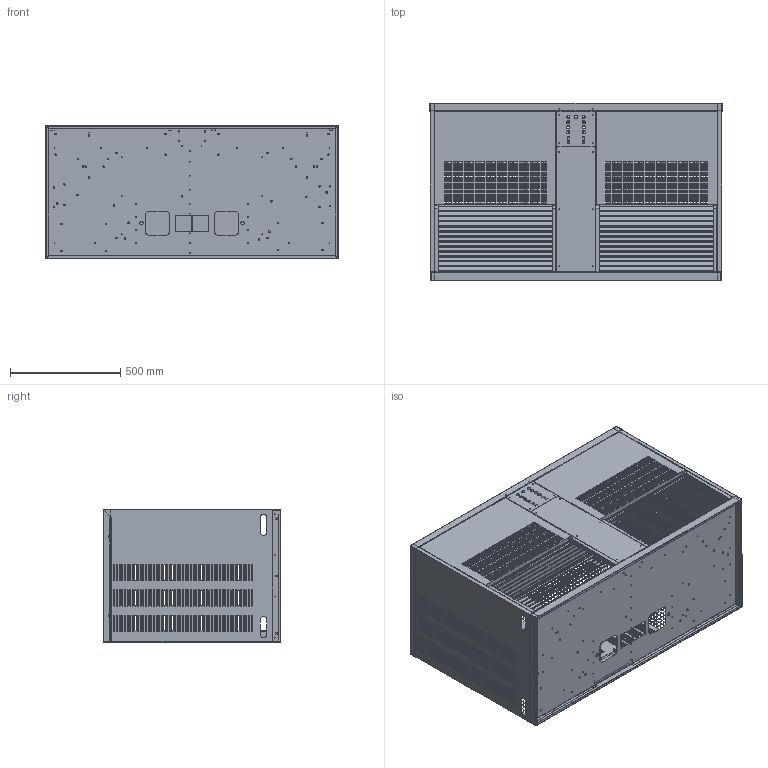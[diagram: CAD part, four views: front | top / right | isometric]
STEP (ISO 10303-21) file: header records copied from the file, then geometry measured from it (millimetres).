
FILE_DESCRIPTION(/* description */ ('Unknown'),/* implementation_level */ '2;1');
FILE_NAME(/* name */ 'IQ-1100',/* time_stamp */ '2018-04-23T18:03:13+02:00',/* author */ ('Unknown'),/* organization */ ('Unknown'),/* preprocessor_version */ 'ST-DEVELOPER v16.7',/* originating_system */ 'DEX',/* authorisation */ $);
FILE_SCHEMA (('CONFIG_CONTROL_DESIGN','AP203_CONFIGURATION_CONTROLLED_3D_DESIGN_OF_MECHANICAL_PARTS_AND_ASSEMBLIES_MIM_LF { 1 0 10303 203 3 1 4 }'));
Products named in the file (11): IQ-1100; 24-109+2730; 24-115+2735; 24-115+2736; 24-114+2737; 24-28+2738; 1-77+7572; 24-116+2723; 24-124; 24-119+2722; 24-117+2729
Assembly tree (12 placements, depth 2):
  IQ-1100
    24-109+2730
    24-115+2735
    24-115+2736
    24-114+2737
    24-28+2738  x2
    1-77+7572  x2
    24-116+2723
    24-124
    24-119+2722
    24-117+2729
Bounding box: 1329.2 x 807.61 x 604.72 mm (x, y, z)
Volume: 4944886.3 mm3; surface area: 9472986.1 mm2
Topology: 12 solids, 12 shells, 10481 faces, 31248 edges, 20785 vertices
Faces by surface type: plane 9402, cylinder 1055, bspline 24
Full cylindrical faces by diameter (mm): 3.25 x2, 4 x47, 4.25 x43, 6 x53, 7 x4, 8 x8, 15 x11, 22 x1, 30 x2
Entity records: 325457 total; most frequent: CARTESIAN_POINT 57399, ORIENTED_EDGE 56502, DIRECTION 49198, EDGE_CURVE 28251, LINE 26260, VECTOR 26260, VERTEX_POINT 18890, EDGE_LOOP 14457
